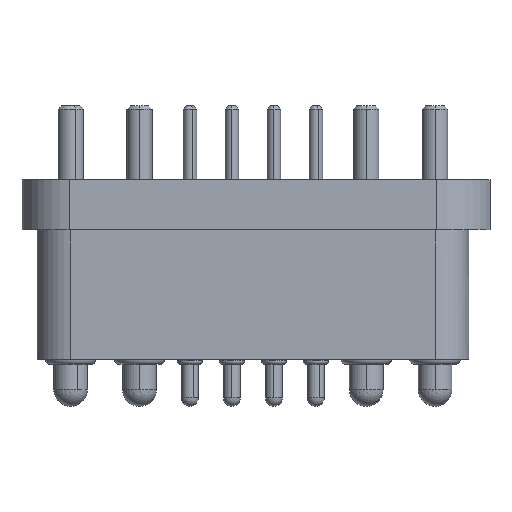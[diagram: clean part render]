
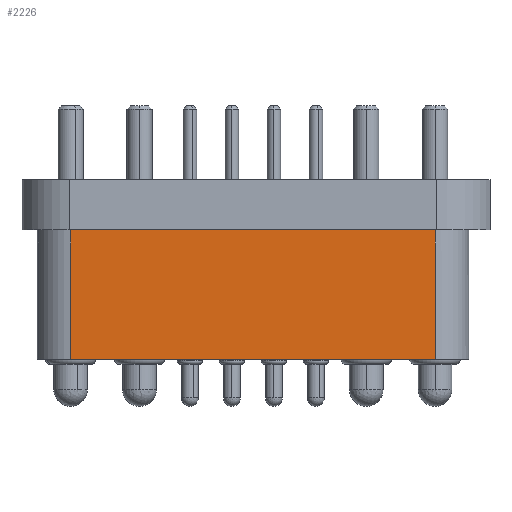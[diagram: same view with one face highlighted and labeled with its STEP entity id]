
A CAD part, front view. The second image highlights one B-rep face of the part: STEP entity #2226.
In plain terms, the highlighted planar face has unit normal (0, -1, 0) as drawn and (0.276, -0.961, 0) by its records, which use the part's own axes.
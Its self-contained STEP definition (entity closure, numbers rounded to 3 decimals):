
#1344=DIRECTION('',(-0.961,-0.276,0.));
#1345=VECTOR('',#1344,21.7);
#1346=CARTESIAN_POINT('',(14.667,1.824,2.));
#1347=LINE('',#1346,#1345);
#1371=DIRECTION('',(0.,0.,1.));
#1372=VECTOR('',#1371,7.7);
#1373=CARTESIAN_POINT('',(-6.188,-4.172,2.));
#1374=LINE('',#1373,#1372);
#1383=DIRECTION('',(0.,0.,-1.));
#1384=VECTOR('',#1383,7.7);
#1385=CARTESIAN_POINT('',(14.667,1.824,9.7));
#1386=LINE('',#1385,#1384);
#1406=DIRECTION('',(0.961,0.276,0.));
#1407=VECTOR('',#1406,21.7);
#1408=CARTESIAN_POINT('',(-6.188,-4.172,9.7));
#1409=LINE('',#1408,#1407);
#1751=CARTESIAN_POINT('',(-6.188,-4.172,9.7));
#1752=CARTESIAN_POINT('',(14.667,1.824,9.7));
#1753=VERTEX_POINT('',#1751);
#1754=VERTEX_POINT('',#1752);
#1787=CARTESIAN_POINT('',(14.667,1.824,2.));
#1788=VERTEX_POINT('',#1787);
#1825=CARTESIAN_POINT('',(-6.188,-4.172,2.));
#1826=VERTEX_POINT('',#1825);
#2212=CARTESIAN_POINT('',(-6.188,-4.172,-1.));
#2213=DIRECTION('',(0.276,-0.961,0.));
#2214=DIRECTION('',(0.961,0.276,0.));
#2215=AXIS2_PLACEMENT_3D('',#2212,#2213,#2214);
#2216=PLANE('',#2215);
#2218=ORIENTED_EDGE('',*,*,#2217,.T.);
#2220=ORIENTED_EDGE('',*,*,#2219,.T.);
#2222=ORIENTED_EDGE('',*,*,#2221,.T.);
#2223=ORIENTED_EDGE('',*,*,#2199,.T.);
#2224=EDGE_LOOP('',(#2218,#2220,#2222,#2223));
#2225=FACE_OUTER_BOUND('',#2224,.F.);
#2226=ADVANCED_FACE('',(#2225),#2216,.T.);
#2199=EDGE_CURVE('',#1788,#1826,#1347,.T.);
#2217=EDGE_CURVE('',#1826,#1753,#1374,.T.);
#2219=EDGE_CURVE('',#1753,#1754,#1409,.T.);
#2221=EDGE_CURVE('',#1754,#1788,#1386,.T.);
